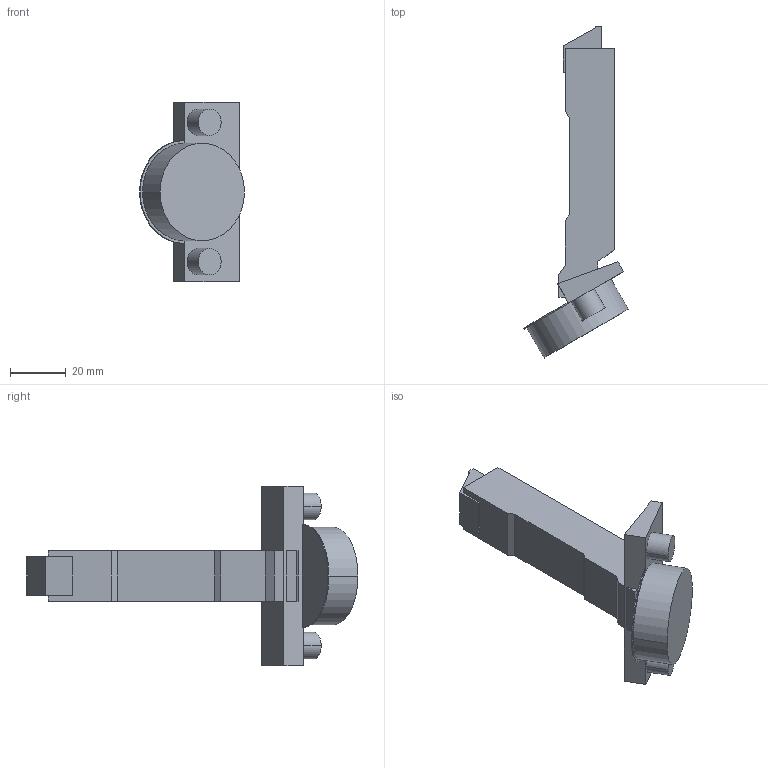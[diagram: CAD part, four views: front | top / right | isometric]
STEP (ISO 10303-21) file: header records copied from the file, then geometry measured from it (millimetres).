
FILE_DESCRIPTION (( 'STEP AP214' ), '1' );
FILE_NAME ('Scharnier T Impresso 120°_-30° HS_BB, aufliegend.step', '2010-12-13T09:58:21', ( 'grass' ), ( '' ), 'SwSTEP 2.0', 'SolidWorks 2010', '' );
FILE_SCHEMA (( 'AUTOMOTIVE_DESIGN' ));
Length unit declared in the file: millimetre
Products named in the file (1): Scharnier T Impresso 120°_-30° HS_BB, aufliegend
Bounding box: 37.68 x 119.25 x 64.5 mm (x, y, z)
Volume: 48066.4 mm3; surface area: 13368.4 mm2
Topology: 1 solids, 3 shells, 61 faces, 141 edges, 94 vertices
Faces by surface type: plane 44, cylinder 17
Entity records: 1759 total; most frequent: DIRECTION 299, CARTESIAN_POINT 297, ORIENTED_EDGE 282, EDGE_CURVE 141, LINE 107, VECTOR 107, AXIS2_PLACEMENT_3D 96, VERTEX_POINT 94
